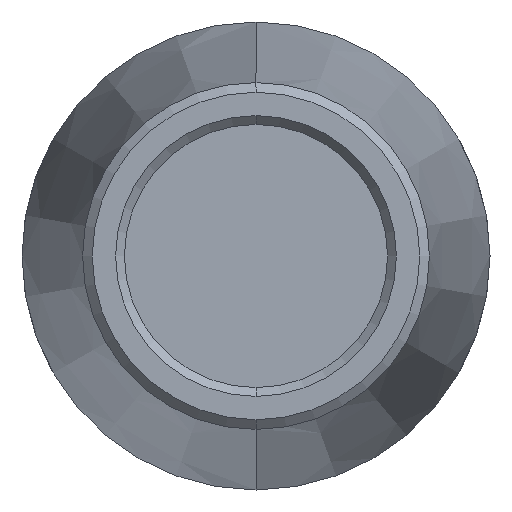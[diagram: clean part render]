
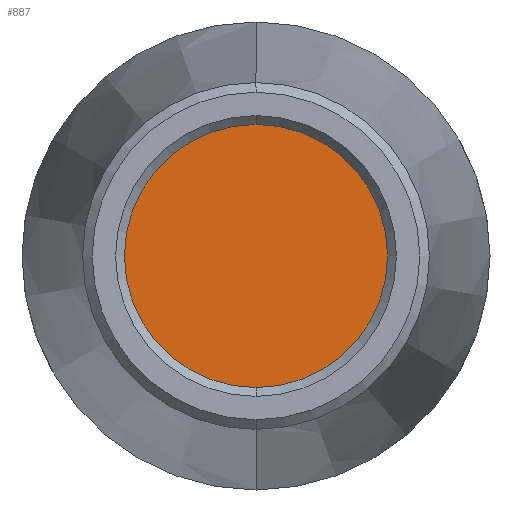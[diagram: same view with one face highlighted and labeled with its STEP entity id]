
A CAD part, front view. The second image highlights one B-rep face of the part: STEP entity #887.
In plain terms, the highlighted planar face has unit normal (0, -1, 0).
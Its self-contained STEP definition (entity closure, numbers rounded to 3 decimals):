
#2 = CIRCLE ( 'NONE', #590, 4.5 ) ;
#8 = AXIS2_PLACEMENT_3D ( 'NONE', #135, #216, #298 ) ;
#9 = VERTEX_POINT ( 'NONE', #483 ) ;
#18 = CARTESIAN_POINT ( 'NONE',  ( 0., 17., 0. ) ) ;
#72 = CARTESIAN_POINT ( 'NONE',  ( 0., 17., 4.5 ) ) ;
#135 = CARTESIAN_POINT ( 'NONE',  ( 0., 17., 0. ) ) ;
#161 = DIRECTION ( 'NONE',  ( 0., 1., 0. ) ) ;
#178 = EDGE_CURVE ( 'NONE', #682, #9, #401, .T. ) ;
#216 = DIRECTION ( 'NONE',  ( 0., 1., 0. ) ) ;
#298 = DIRECTION ( 'NONE',  ( 0., 0., 1. ) ) ;
#401 = CIRCLE ( 'NONE', #8, 4.5 ) ;
#483 = CARTESIAN_POINT ( 'NONE',  ( 0., 17., -4.5 ) ) ;
#524 = AXIS2_PLACEMENT_3D ( 'NONE', #18, #161, #755 ) ;
#576 = EDGE_CURVE ( 'NONE', #9, #682, #2, .T. ) ;
#590 = AXIS2_PLACEMENT_3D ( 'NONE', #794, #723, #854 ) ;
#604 = ORIENTED_EDGE ( 'NONE', *, *, #178, .F. ) ;
#623 = ORIENTED_EDGE ( 'NONE', *, *, #576, .F. ) ;
#628 = EDGE_LOOP ( 'NONE', ( #623, #604 ) ) ;
#632 = FACE_OUTER_BOUND ( 'NONE', #628, .T. ) ;
#681 = PLANE ( 'NONE',  #524 ) ;
#682 = VERTEX_POINT ( 'NONE', #72 ) ;
#723 = DIRECTION ( 'NONE',  ( 0., 1., 0. ) ) ;
#755 = DIRECTION ( 'NONE',  ( 0., 0., 1. ) ) ;
#794 = CARTESIAN_POINT ( 'NONE',  ( 0., 17., 0. ) ) ;
#854 = DIRECTION ( 'NONE',  ( 0., 0., 1. ) ) ;
#887 = ADVANCED_FACE ( 'NONE', ( #632 ), #681, .F. ) ;
